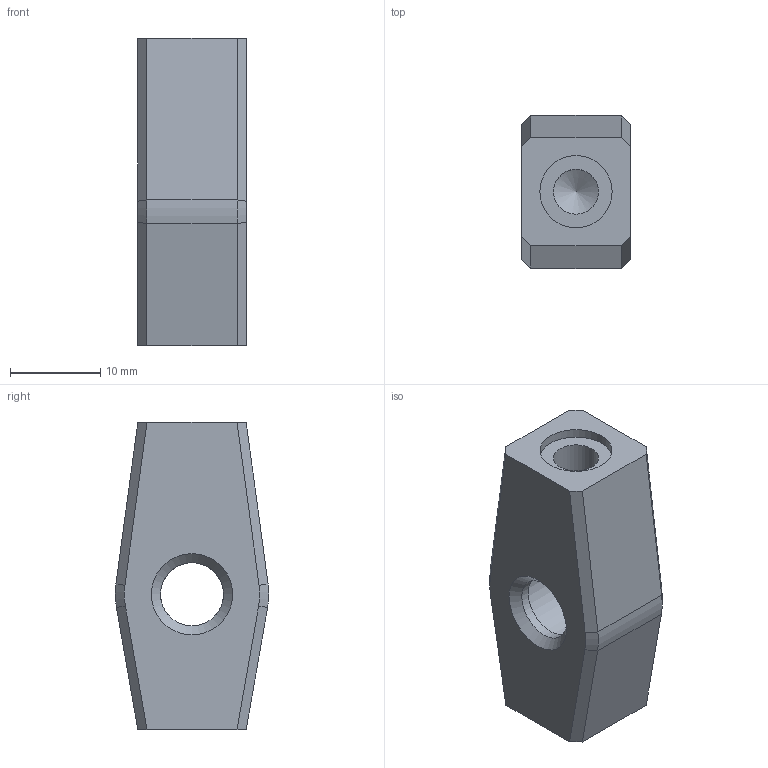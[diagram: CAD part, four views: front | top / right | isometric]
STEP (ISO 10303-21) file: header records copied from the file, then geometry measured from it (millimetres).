
FILE_DESCRIPTION(/* description */ (''),/* implementation_level */ '2;1');
FILE_NAME(/* name */ 'Y:\3DDATA\2_OpticalHard\01_国内製品\2_Holders\LHF\LHF-10S-N\LHF10S-N.stp',/* time_stamp */ '2014-08-07T16:30:04+09:00',/* author */ ('e.nonaka'),/* organization */ (''),/* preprocessor_version */ 'ST-DEVELOPER v15.2',/* originating_system */ 'Autodesk Inventor 2014',/* authorisation */ '');
FILE_SCHEMA (('AUTOMOTIVE_DESIGN { 1 0 10303 214 3 1 1 }'));
Length unit declared in the file: millimetre
Products named in the file (1): LHF10S-N-M03-10002-TS01
Bounding box: 12 x 16.99 x 34.05 mm (x, y, z)
Volume: 4767.8 mm3; surface area: 2611 mm2
Topology: 1 solids, 1 shells, 48 faces, 114 edges, 72 vertices
Faces by surface type: plane 30, cylinder 11, cone 7
Full cylindrical faces by diameter (mm): 4.917 x1, 4.978 x1, 7 x2, 8 x2, 10 x1
Entity records: 1310 total; most frequent: DIRECTION 232, CARTESIAN_POINT 215, ORIENTED_EDGE 198, EDGE_CURVE 99, AXIS2_PLACEMENT_3D 84, VERTEX_POINT 67, EDGE_LOOP 64, LINE 64
